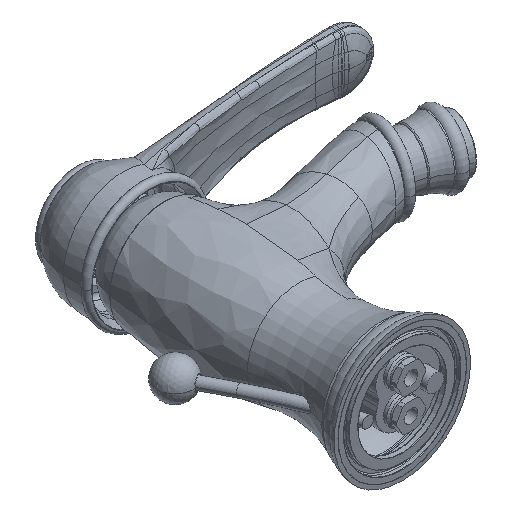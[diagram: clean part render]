
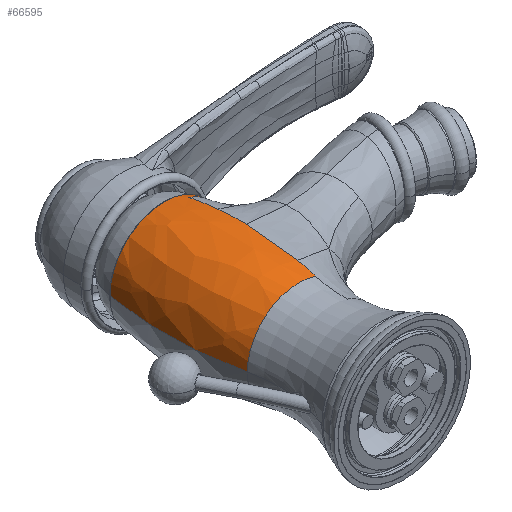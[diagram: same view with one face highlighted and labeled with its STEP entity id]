
A CAD part, isometric view. The second image highlights one B-rep face of the part: STEP entity #66595.
In plain terms, the highlighted free-form (B-spline) face has degree [3, 3] with [7, 4] control points.
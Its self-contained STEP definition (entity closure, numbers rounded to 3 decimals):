
#2267=CARTESIAN_POINT('',(8.332,49.71,23.554));
#2268=CARTESIAN_POINT('',(8.339,49.833,23.573));
#2269=CARTESIAN_POINT('',(8.352,50.079,23.611));
#2270=CARTESIAN_POINT('',(8.378,50.571,23.685));
#2271=CARTESIAN_POINT('',(8.423,51.431,23.811));
#2272=CARTESIAN_POINT('',(8.484,52.663,23.983));
#2273=CARTESIAN_POINT('',(8.552,54.143,24.176));
#2274=CARTESIAN_POINT('',(8.637,56.118,24.415));
#2275=CARTESIAN_POINT('',(8.73,58.592,24.68));
#2276=CARTESIAN_POINT('',(8.855,62.558,25.032));
#2277=CARTESIAN_POINT('',(8.962,67.527,25.335));
#2278=CARTESIAN_POINT('',(8.996,71.51,25.431));
#2279=CARTESIAN_POINT('',(9.,73.502,25.443));
#2327=CARTESIAN_POINT('',(0.,40.88,0.));
#2328=DIRECTION('',(0.,1.,0.));
#2329=DIRECTION('',(-1.,0.,0.));
#2330=AXIS2_PLACEMENT_3D('',#2327,#2328,#2329);
#2332=CARTESIAN_POINT('',(126.61,74.453,0.));
#2333=DIRECTION('',(0.,0.,1.));
#2334=DIRECTION('',(-0.984,0.179,0.));
#2335=AXIS2_PLACEMENT_3D('',#2332,#2333,#2334);
#2337=CARTESIAN_POINT('',(-126.61,74.453,
0.));
#2338=DIRECTION('',(0.,0.,-1.));
#2339=DIRECTION('',(0.984,0.179,0.));
#2340=AXIS2_PLACEMENT_3D('',#2337,#2338,#2339);
#2342=CARTESIAN_POINT('',(8.334,49.71,23.554));
#2343=CARTESIAN_POINT('',(8.299,49.125,23.464));
#2344=CARTESIAN_POINT('',(8.233,48.003,23.286));
#2345=CARTESIAN_POINT('',(8.126,46.476,23.032));
#2346=CARTESIAN_POINT('',(8.078,45.546,22.861));
#2347=CARTESIAN_POINT('',(8.057,45.104,22.777));
#2349=CARTESIAN_POINT('',(-42.223,74.453,
-119.362));
#2350=DIRECTION('',(-0.943,0.,0.333));
#2351=DIRECTION('',(0.325,-0.219,0.92));
#2352=AXIS2_PLACEMENT_3D('',#2349,#2350,#2351);
#6101=CARTESIAN_POINT('',(0.,99.,0.));
#6102=DIRECTION('',(0.,1.,0.));
#6103=DIRECTION('',(0.817,0.,0.577));
#6104=AXIS2_PLACEMENT_3D('',#6101,#6102,#6103);
#6135=CARTESIAN_POINT('',(0.,99.,0.));
#6136=DIRECTION('',(0.,1.,0.));
#6137=DIRECTION('',(0.333,0.,0.943));
#6138=AXIS2_PLACEMENT_3D('',#6135,#6136,#6137);
#6155=CARTESIAN_POINT('',(-42.223,74.453,
-119.362));
#6156=DIRECTION('',(-0.943,0.,0.333));
#6157=DIRECTION('',(0.332,0.077,0.94));
#6158=AXIS2_PLACEMENT_3D('',#6155,#6156,#6157);
#6160=CARTESIAN_POINT('',(-42.223,74.453,
-119.362));
#6161=DIRECTION('',(-0.943,0.,0.333));
#6162=DIRECTION('',(0.333,-0.006,0.943));
#6163=AXIS2_PLACEMENT_3D('',#6160,#6161,#6162);
#6199=CARTESIAN_POINT('',(0.,102.,0.));
#6200=DIRECTION('',(0.,-1.,0.));
#6201=DIRECTION('',(1.,0.,0.));
#6202=AXIS2_PLACEMENT_3D('',#6199,#6200,#6201);
#50074=CARTESIAN_POINT('',(24.5,102.,0.));
#50075=CARTESIAN_POINT('',(-24.5,102.,0.));
#50076=VERTEX_POINT('',#50074);
#50077=VERTEX_POINT('',#50075);
#50078=CARTESIAN_POINT('',(9.,73.502,25.443));
#50079=CARTESIAN_POINT('',(8.849,86.292,25.015));
#50080=VERTEX_POINT('',#50078);
#50081=VERTEX_POINT('',#50079);
#50082=CARTESIAN_POINT('',(8.343,99.,23.584));
#50083=CARTESIAN_POINT('',(20.427,99.,14.441));
#50084=VERTEX_POINT('',#50082);
#50085=VERTEX_POINT('',#50083);
#50086=CARTESIAN_POINT('',(25.016,99.,0.));
#50087=VERTEX_POINT('',#50086);
#50141=CARTESIAN_POINT('',(-23.277,40.88,0.));
#50143=VERTEX_POINT('',#50141);
#50151=CARTESIAN_POINT('',(7.762,40.88,21.944));
#50152=VERTEX_POINT('',#50151);
#50153=VERTEX_POINT('',#2342);
#50154=VERTEX_POINT('',#2347);
#66545=CARTESIAN_POINT('',(24.227,103.21,
-1.524));
#66546=CARTESIAN_POINT('',(28.242,82.099,
-1.777));
#66547=CARTESIAN_POINT('',(27.813,60.613,
-1.75));
#66548=CARTESIAN_POINT('',(22.957,39.68,
-1.444));
#66549=CARTESIAN_POINT('',(25.164,103.21,13.385));
#66550=CARTESIAN_POINT('',(29.336,82.099,15.603));
#66551=CARTESIAN_POINT('',(28.89,60.613,15.366));
#66552=CARTESIAN_POINT('',(23.846,39.68,12.684));
#66553=CARTESIAN_POINT('',(14.938,103.21,24.274));
#66554=CARTESIAN_POINT('',(17.415,82.099,28.298));
#66555=CARTESIAN_POINT('',(17.15,60.613,27.868));
#66556=CARTESIAN_POINT('',(14.156,39.68,23.003));
#66557=CARTESIAN_POINT('',(0.,103.21,
24.274));
#66558=CARTESIAN_POINT('',(0.,82.099,28.298));
#66559=CARTESIAN_POINT('',(0.,60.613,27.868));
#66560=CARTESIAN_POINT('',(0.,39.68,
23.003));
#66561=CARTESIAN_POINT('',(-14.938,103.21,
24.274));
#66562=CARTESIAN_POINT('',(-17.415,82.099,
28.298));
#66563=CARTESIAN_POINT('',(-17.15,60.613,27.868));
#66564=CARTESIAN_POINT('',(-14.156,39.68,
23.003));
#66565=CARTESIAN_POINT('',(-25.164,103.21,
13.385));
#66566=CARTESIAN_POINT('',(-29.336,82.099,
15.603));
#66567=CARTESIAN_POINT('',(-28.89,60.613,
15.366));
#66568=CARTESIAN_POINT('',(-23.846,39.68,
12.684));
#66569=CARTESIAN_POINT('',(-24.227,103.21,
-1.524));
#66570=CARTESIAN_POINT('',(-28.242,82.099,
-1.777));
#66571=CARTESIAN_POINT('',(-27.813,60.613,
-1.75));
#66572=CARTESIAN_POINT('',(-22.957,39.68,
-1.444));
#66573=(BOUNDED_SURFACE()B_SPLINE_SURFACE(3,3,((#66545,#66546,#66547,#66548),(
#66549,#66550,#66551,#66552),(#66553,#66554,#66555,#66556),(#66557,#66558,
#66559,#66560),(#66561,#66562,#66563,#66564),(#66565,#66566,#66567,#66568),(
#66569,#66570,#66571,#66572)),.UNSPECIFIED.,.F.,.F.,.F.)B_SPLINE_SURFACE_WITH_KNOTS((4,3,4),(4,4),(0.,1.,2.),(0.,1.),.UNSPECIFIED.)GEOMETRIC_REPRESENTATION_ITEM()RATIONAL_B_SPLINE_SURFACE(((1.2,1.183,
1.183,1.2),(0.948,0.934,
0.934,0.948),(0.948,0.934,
0.934,0.948),(1.2,1.183,
1.183,1.2),(0.948,0.934,
0.934,0.948),(0.948,0.934,
0.934,0.948),(1.2,1.183,
1.183,1.2)))REPRESENTATION_ITEM('')SURFACE());
#66575=ORIENTED_EDGE('',*,*,#66574,.F.);
#66577=ORIENTED_EDGE('',*,*,#66576,.F.);
#66579=ORIENTED_EDGE('',*,*,#66578,.F.);
#66581=ORIENTED_EDGE('',*,*,#66580,.T.);
#66583=ORIENTED_EDGE('',*,*,#66582,.F.);
#66585=ORIENTED_EDGE('',*,*,#66584,.F.);
#66587=ORIENTED_EDGE('',*,*,#66586,.F.);
#66589=ORIENTED_EDGE('',*,*,#66588,.F.);
#66590=ORIENTED_EDGE('',*,*,#66325,.F.);
#66591=ORIENTED_EDGE('',*,*,#66529,.T.);
#66592=ORIENTED_EDGE('',*,*,#66540,.F.);
#66593=EDGE_LOOP('',(#66575,#66577,#66579,#66581,#66583,#66585,#66587,#66589,
#66590,#66591,#66592));
#66594=FACE_OUTER_BOUND('',#66593,.F.);
#66595=ADVANCED_FACE('',(#66594),#66573,.T.);
#2280=B_SPLINE_CURVE_WITH_KNOTS('',3,(#2267,#2268,#2269,#2270,#2271,#2272,#2273,
#2274,#2275,#2276,#2277,#2278,#2279),.UNSPECIFIED.,.F.,.F.,(4,1,1,1,1,1,1,1,1,1,
4),(0.,0.016,0.031,0.063,0.125,0.188,0.25,0.375,0.5,
0.75,1.),.UNSPECIFIED.);
#2331=CIRCLE('',#2330,23.277);
#2336=CIRCLE('',#2335,153.6);
#2341=CIRCLE('',#2340,153.6);
#2348=B_SPLINE_CURVE_WITH_KNOTS('',3,(#2342,#2343,#2344,#2345,#2346,#2347),
.UNSPECIFIED.,.F.,.F.,(4,1,1,4),(0.,0.333,0.667,1.),
.UNSPECIFIED.);
#2353=CIRCLE('',#2352,153.6);
#6105=CIRCLE('',#6104,25.016);
#6139=CIRCLE('',#6138,25.016);
#6159=CIRCLE('',#6158,153.6);
#6164=CIRCLE('',#6163,153.6);
#6203=CIRCLE('',#6202,24.5);
#66325=EDGE_CURVE('',#50153,#50080,#2280,.T.);
#66529=EDGE_CURVE('',#50153,#50154,#2348,.T.);
#66540=EDGE_CURVE('',#50152,#50154,#2353,.T.);
#66574=EDGE_CURVE('',#50143,#50152,#2331,.T.);
#66576=EDGE_CURVE('',#50077,#50143,#2336,.T.);
#66578=EDGE_CURVE('',#50076,#50077,#6203,.T.);
#66580=EDGE_CURVE('',#50076,#50087,#2341,.T.);
#66582=EDGE_CURVE('',#50085,#50087,#6105,.T.);
#66584=EDGE_CURVE('',#50084,#50085,#6139,.T.);
#66586=EDGE_CURVE('',#50081,#50084,#6159,.T.);
#66588=EDGE_CURVE('',#50080,#50081,#6164,.T.);
